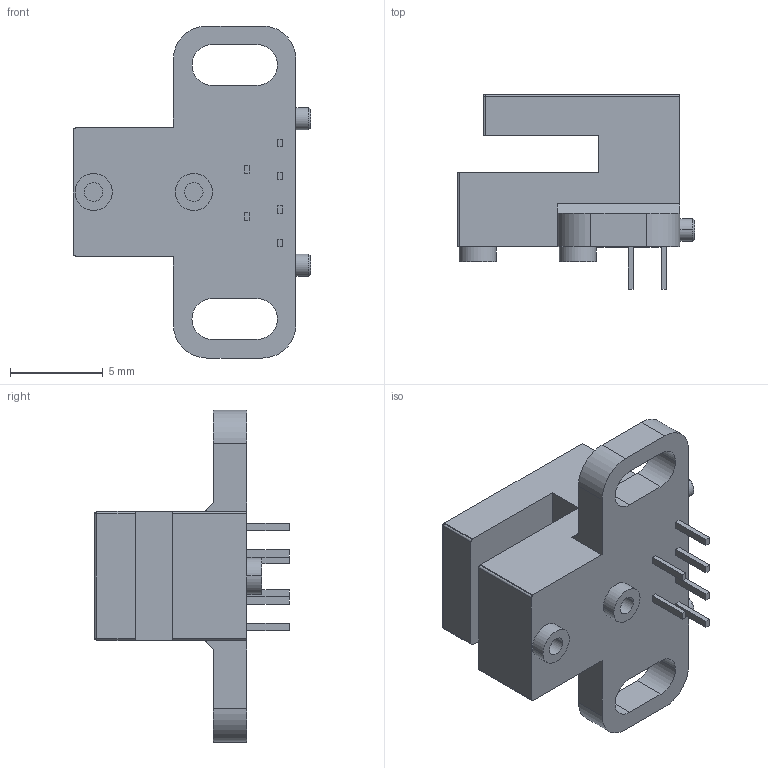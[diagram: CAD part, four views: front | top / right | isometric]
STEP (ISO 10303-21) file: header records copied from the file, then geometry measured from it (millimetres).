
FILE_DESCRIPTION (( 'STEP AP214' ), '1' );
FILE_NAME ('RK俔褒湍嫉嗡.STEP', '2024-05-30T02:32:26', ( 'dell' ), ( '' ), 'SwSTEP 2.0', 'SolidWorks 2021', '' );
FILE_SCHEMA (( 'AUTOMOTIVE_DESIGN' ));
Length unit declared in the file: millimetre
Products named in the file (1): RK俔褒湍嫉嗡
Bounding box: 12.8 x 10.5 x 17.9 mm (x, y, z)
Volume: 660.2 mm3; surface area: 745.3 mm2
Topology: 7 solids, 7 shells, 112 faces, 261 edges, 168 vertices
Faces by surface type: plane 75, cylinder 31, cone 4, sphere 2
Entity records: 4441 total; most frequent: DIRECTION 551, CARTESIAN_POINT 540, ORIENTED_EDGE 518, EDGE_CURVE 259, LINE 193, VECTOR 193, AXIS2_PLACEMENT_3D 179, VERTEX_POINT 168
